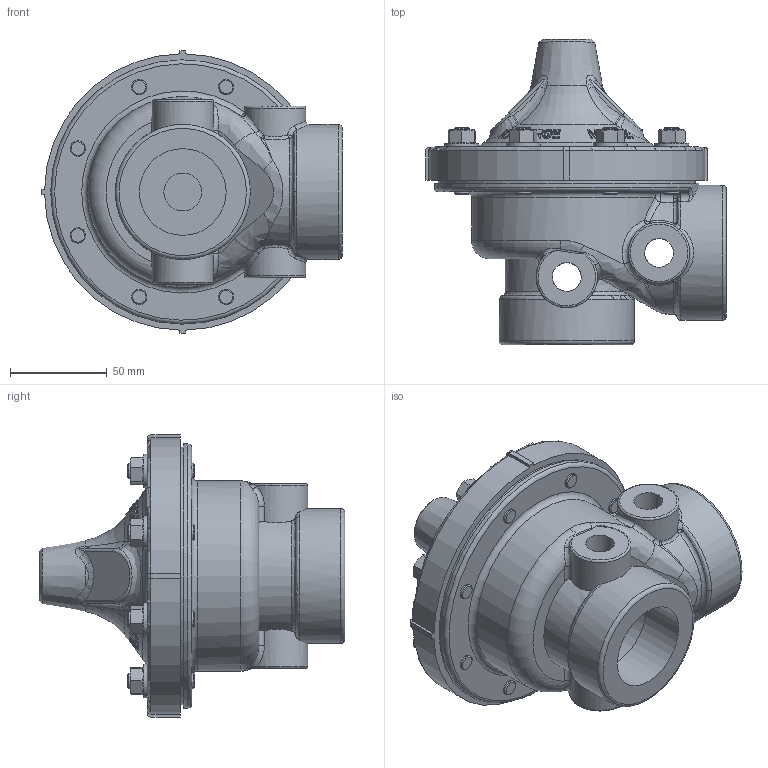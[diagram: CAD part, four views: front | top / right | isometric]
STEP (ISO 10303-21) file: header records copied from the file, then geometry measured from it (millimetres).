
FILE_DESCRIPTION(/* description */ (''),/* implementation_level */ '2;1');
FILE_NAME(/* name */ 'G:\Doc_Liberes\SymbolesCAD\Modeles_3D\FichierSTP\VanneDeBase\AE008-16N1.stp',/* time_stamp */ '2023-08-17T08:38:53+02:00',/* author */ ('theo'),/* organization */ (''),/* preprocessor_version */ 'ST-DEVELOPER v18.1',/* originating_system */ 'Autodesk Inventor 2022',/* authorisation */ '');
FILE_SCHEMA (('AUTOMOTIVE_DESIGN { 1 0 10303 214 3 1 1 }'));
Length unit declared in the file: millimetre
Products named in the file (1): AERp112_Simplifier_1
Bounding box: 155.55 x 158.07 x 146 mm (x, y, z)
Volume: 628370.3 mm3; surface area: 151414 mm2
Topology: 1 solids, 1 shells, 929 faces, 2358 edges, 1487 vertices
Faces by surface type: plane 374, cone 198, bspline 191, cylinder 114, torus 46, sphere 6
Full cylindrical faces by diameter (mm): 7.938 x22, 14.95 x4, 17.462 x8, 31.75 x2, 32 x1, 44.85 x2, 50.8 x1, 64.77 x1, 65 x1, 69.85 x2, 85.85 x1, 133.16 x1, 135.5 x1, 136.65 x1
Entity records: 35163 total; most frequent: CARTESIAN_POINT 15715, ORIENTED_EDGE 4708, DIRECTION 3305, EDGE_CURVE 2354, VERTEX_POINT 1487, AXIS2_PLACEMENT_3D 1393, EDGE_LOOP 1015, FACE_OUTER_BOUND 929
